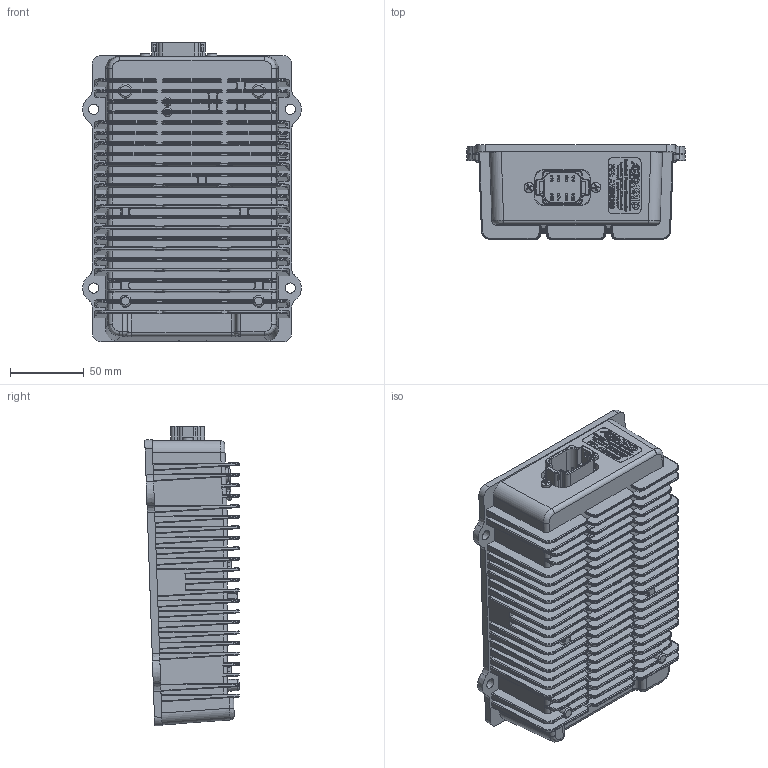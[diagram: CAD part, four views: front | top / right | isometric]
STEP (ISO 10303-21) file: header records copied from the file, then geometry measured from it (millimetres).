
FILE_DESCRIPTION(/* description */ ('','CAx-IF Rec.Pracs.---Representation and Presentation of Product Manufacturing Information (PMI)---3.8---2014-02-18'),/* implementation_level */ '2;1');
FILE_NAME(/* name */ 'S:\Projects\PS-15-60VIN-24-350W-EN, AX080300, Proj_21023\UNIT ASSEMBLY\RELEASED\P1\AX080300 STEP.stp',/* time_stamp */ '2021-12-13T18:03:54-05:00',/* author */ ('tfisher'),/* organization */ (''),/* preprocessor_version */ 'ST-DEVELOPER v16.13',/* originating_system */ 'Autodesk Inventor 2018',/* authorisation */ '');
FILE_SCHEMA (('AP242_MANAGED_MODEL_BASED_3D_ENGINEERING_MIM_LF { 1 0 10303 442 1 1 4 }'));
Products named in the file (1): FG-AX080300 for STEP
Bounding box: 147.93 x 63.95 x 202.94 mm (x, y, z)
Volume: 457358.7 mm3; surface area: 225360.7 mm2
Topology: 1 solids, 18 shells, 5264 faces, 13440 edges, 8485 vertices
Faces by surface type: plane 2089, bspline 1554, cylinder 1347, torus 138, cone 114, sphere 22
Full cylindrical faces by diameter (mm): 1.562 x32, 2.794 x7, 3.175 x7, 3.251 x3, 3.505 x2, 3.708 x2, 4.14 x6, 5 x6, 6.604 x7, 8.128 x2, 8.9 x6
Entity records: 185095 total; most frequent: CARTESIAN_POINT 64377, ORIENTED_EDGE 26408, DIRECTION 22535, EDGE_CURVE 13204, VERTEX_POINT 8412, AXIS2_PLACEMENT_3D 7624, LINE 7295, VECTOR 7295
